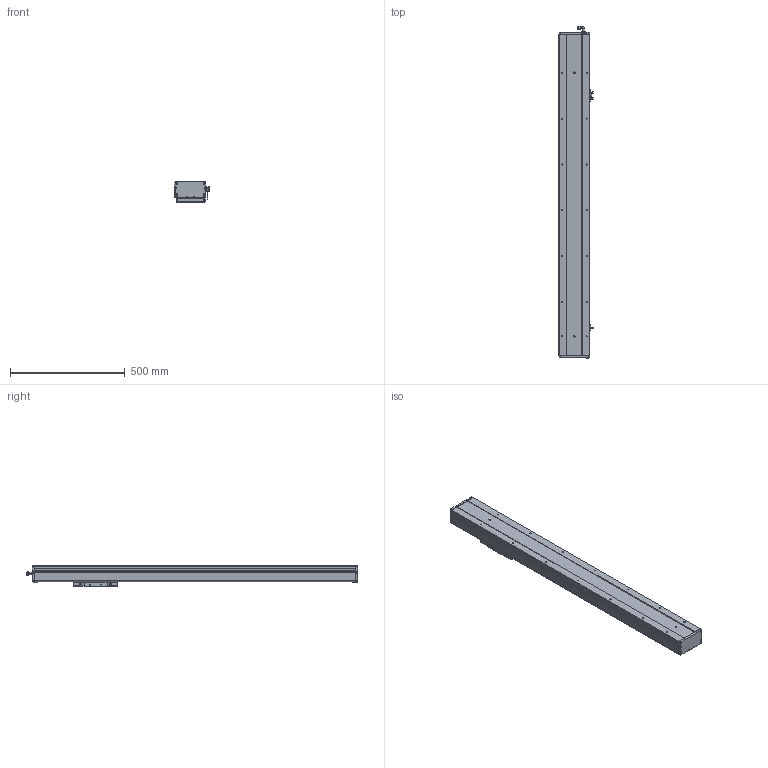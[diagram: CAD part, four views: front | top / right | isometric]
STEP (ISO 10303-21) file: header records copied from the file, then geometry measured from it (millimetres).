
FILE_DESCRIPTION (( 'STEP AP203' ), '1' );
FILE_NAME ('20.STEP', '2020-11-02T11:45:02', ( '' ), ( '' ), 'SwSTEP 2.0', 'SolidWorks 2016', '' );
FILE_SCHEMA (( 'CONFIG_CONTROL_DESIGN' ));
Length unit declared in the file: millimetre
Products named in the file (9): 20; BCH14-M-04; BCH14-M-10; BCH14-M-菁釱; BCH14-M-HZ; BCH14-M-01; BCH14-M-03; BCH14-M-09; BCH14-M-08
Assembly tree (11 placements, depth 2):
  20
    BCH14-M-菁釱
    BCH14-M-01
    BCH14-M-03  x2
    BCH14-M-04  x3
    BCH14-M-08
    BCH14-M-HZ
    BCH14-M-09
    BCH14-M-10
Bounding box: 148.7 x 1447.93 x 91 mm (x, y, z)
Volume: 6721722.4 mm3; surface area: 1264320 mm2
Topology: 19 solids, 19 shells, 1235 faces, 3337 edges, 2106 vertices
Faces by surface type: plane 724, cylinder 371, cone 118, bspline 8, sphere 8, torus 6
Entity records: 31961 total; most frequent: CARTESIAN_POINT 6404, DIRECTION 5116, ORIENTED_EDGE 5114, EDGE_CURVE 2557, AXIS2_PLACEMENT_3D 1744, VERTEX_POINT 1654, LINE 1628, VECTOR 1628
